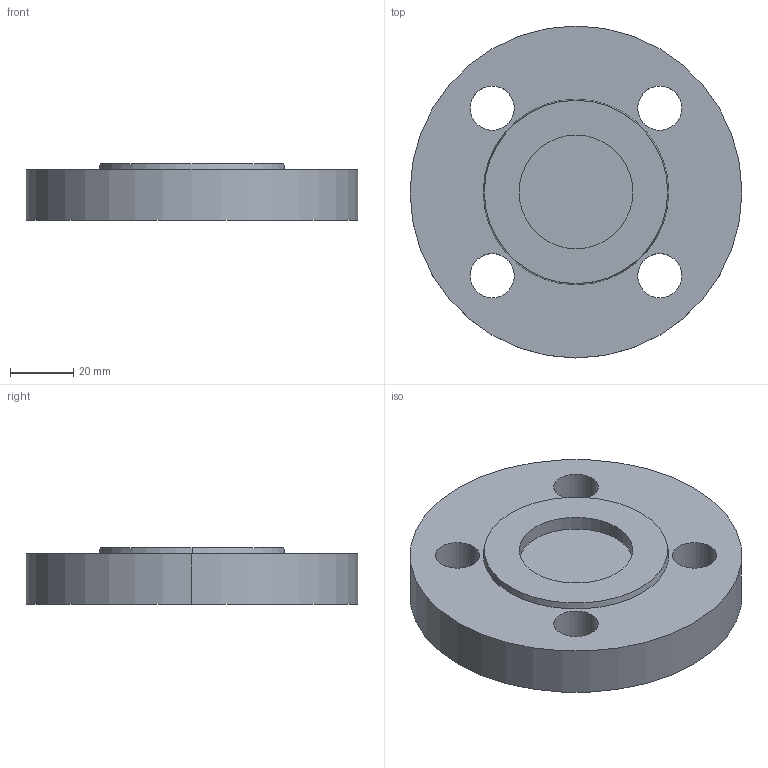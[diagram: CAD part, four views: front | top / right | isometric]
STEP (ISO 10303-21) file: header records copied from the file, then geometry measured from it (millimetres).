
FILE_DESCRIPTION (( 'STEP AP214' ), '1' );
FILE_NAME ('PN40 DN20 Type 05 - Type G Face.STEP', '2018-12-29T18:23:09', ( '' ), ( '' ), 'SwSTEP 2.0', 'SolidWorks 2019', '' );
FILE_SCHEMA (( 'AUTOMOTIVE_DESIGN' ));
Length unit declared in the file: millimetre
Products named in the file (1): PN40 DN20 Type 05 - Type G Face
Bounding box: 105 x 105 x 18 mm (x, y, z)
Volume: 129460.4 mm3; surface area: 24995.9 mm2
Topology: 1 solids, 1 shells, 18 faces, 42 edges, 28 vertices
Faces by surface type: cylinder 12, plane 4, cone 2
Entity records: 584 total; most frequent: DIRECTION 108, CARTESIAN_POINT 89, ORIENTED_EDGE 84, AXIS2_PLACEMENT_3D 47, EDGE_CURVE 42, CIRCLE 28, VERTEX_POINT 28, EDGE_LOOP 28
